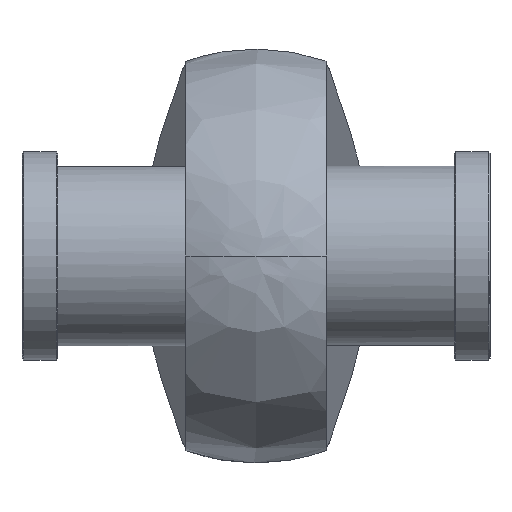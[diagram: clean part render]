
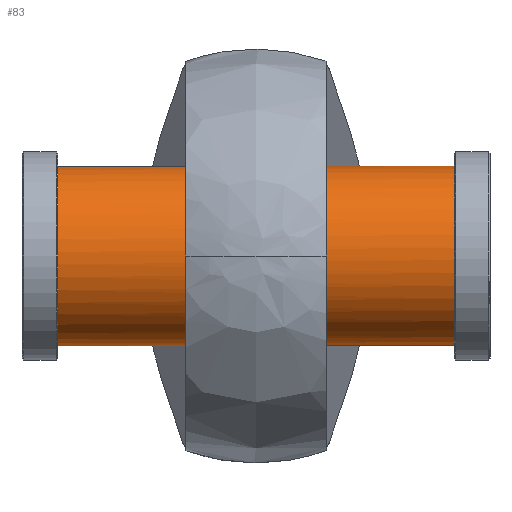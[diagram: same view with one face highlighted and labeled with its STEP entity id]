
A CAD part, left-side view. The second image highlights one B-rep face of the part: STEP entity #83.
In plain terms, the highlighted cylindrical face has radius 25 mm (diameter 50 mm), a full revolution.
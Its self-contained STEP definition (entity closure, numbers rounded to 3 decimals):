
#83=ADVANCED_FACE('',(#157),#1214,.T.);
#157=FACE_OUTER_BOUND('',#238,.T.);
#238=EDGE_LOOP('',(#506,#507,#508,#509));
#506=ORIENTED_EDGE('',*,*,#774,.T.);
#507=ORIENTED_EDGE('',*,*,#776,.T.);
#508=ORIENTED_EDGE('',*,*,#775,.T.);
#509=ORIENTED_EDGE('',*,*,#776,.F.);
#774=EDGE_CURVE('',#1128,#1128,#983,.T.);
#775=EDGE_CURVE('',#1129,#1129,#984,.T.);
#776=EDGE_CURVE('',#1128,#1129,#897,.T.);
#897=B_SPLINE_CURVE_WITH_KNOTS('',1,(#2248,#2249),.UNSPECIFIED.,.F.,.F.,
(2,2),(11.124,121.161),.UNSPECIFIED.);
#983=(
BOUNDED_CURVE()
B_SPLINE_CURVE(2,(#2230,#2231,#2232,#2233,#2234,#2235,#2236,#2237,#2238),
 .UNSPECIFIED.,.T.,.F.)
B_SPLINE_CURVE_WITH_KNOTS((3,2,2,2,3),(0.,39.27,78.54,
117.81,157.08),.UNSPECIFIED.)
CURVE()
GEOMETRIC_REPRESENTATION_ITEM()
RATIONAL_B_SPLINE_CURVE((1.,0.707,1.,0.707,1.,0.707,
1.,0.707,1.))
REPRESENTATION_ITEM('')
);
#984=(
BOUNDED_CURVE()
B_SPLINE_CURVE(2,(#2239,#2240,#2241,#2242,#2243,#2244,#2245,#2246,#2247),
 .UNSPECIFIED.,.T.,.F.)
B_SPLINE_CURVE_WITH_KNOTS((3,2,2,2,3),(0.,39.27,78.54,
117.81,157.08),.UNSPECIFIED.)
CURVE()
GEOMETRIC_REPRESENTATION_ITEM()
RATIONAL_B_SPLINE_CURVE((1.,0.707,1.,0.707,1.,0.707,
1.,0.707,1.))
REPRESENTATION_ITEM('')
);
#1128=VERTEX_POINT('',#2182);
#1129=VERTEX_POINT('',#2183);
#1214=CYLINDRICAL_SURFACE('',#1366,25.);
#1366=AXIS2_PLACEMENT_3D('',#2172,#1412,$);
#1412=DIRECTION('',(0.,-1.,0.));
#2172=CARTESIAN_POINT('',(0.,0.,0.));
#2182=CARTESIAN_POINT('',(25.,55.019,0.));
#2183=CARTESIAN_POINT('',(25.,-55.019,0.));
#2230=CARTESIAN_POINT('',(25.,55.019,0.));
#2231=CARTESIAN_POINT('',(25.,55.019,25.));
#2232=CARTESIAN_POINT('',(0.,55.019,25.));
#2233=CARTESIAN_POINT('',(-25.,55.019,25.));
#2234=CARTESIAN_POINT('',(-25.,55.019,0.));
#2235=CARTESIAN_POINT('',(-25.,55.019,-25.));
#2236=CARTESIAN_POINT('',(0.,55.019,-25.));
#2237=CARTESIAN_POINT('',(25.,55.019,-25.));
#2238=CARTESIAN_POINT('',(25.,55.019,0.));
#2239=CARTESIAN_POINT('',(25.,-55.019,0.));
#2240=CARTESIAN_POINT('',(25.,-55.019,-25.));
#2241=CARTESIAN_POINT('',(0.,-55.019,-25.));
#2242=CARTESIAN_POINT('',(-25.,-55.019,-25.));
#2243=CARTESIAN_POINT('',(-25.,-55.019,0.));
#2244=CARTESIAN_POINT('',(-25.,-55.019,25.));
#2245=CARTESIAN_POINT('',(0.,-55.019,25.));
#2246=CARTESIAN_POINT('',(25.,-55.019,25.));
#2247=CARTESIAN_POINT('',(25.,-55.019,0.));
#2248=CARTESIAN_POINT('',(25.,55.019,0.));
#2249=CARTESIAN_POINT('',(25.,-55.019,0.));
